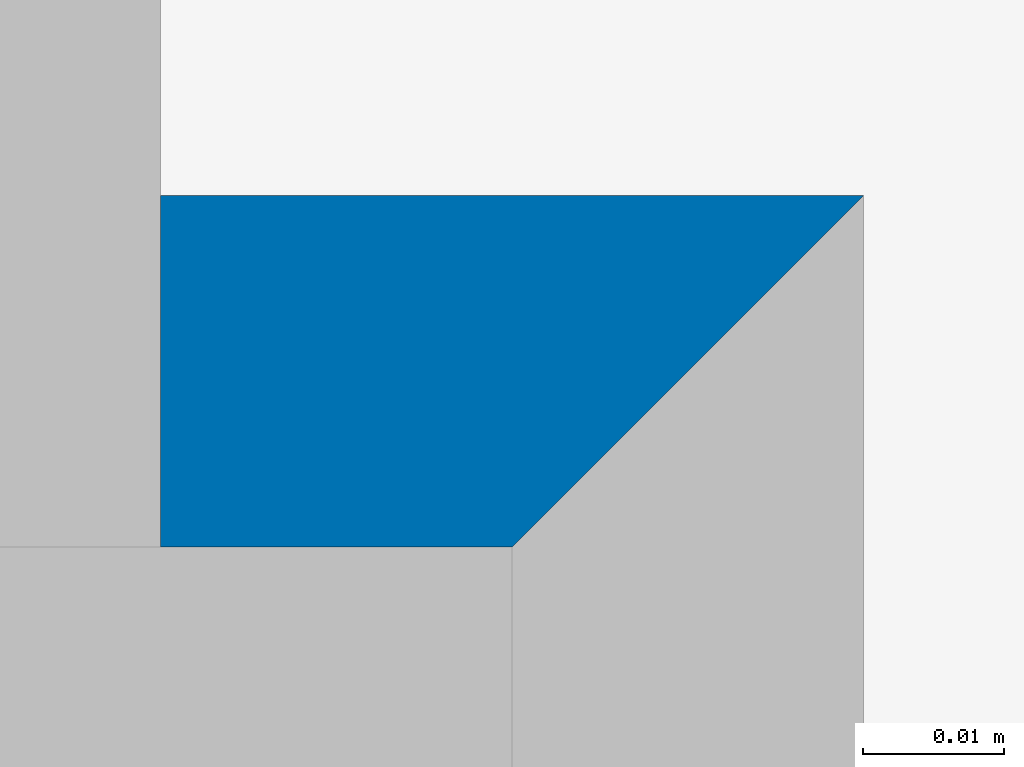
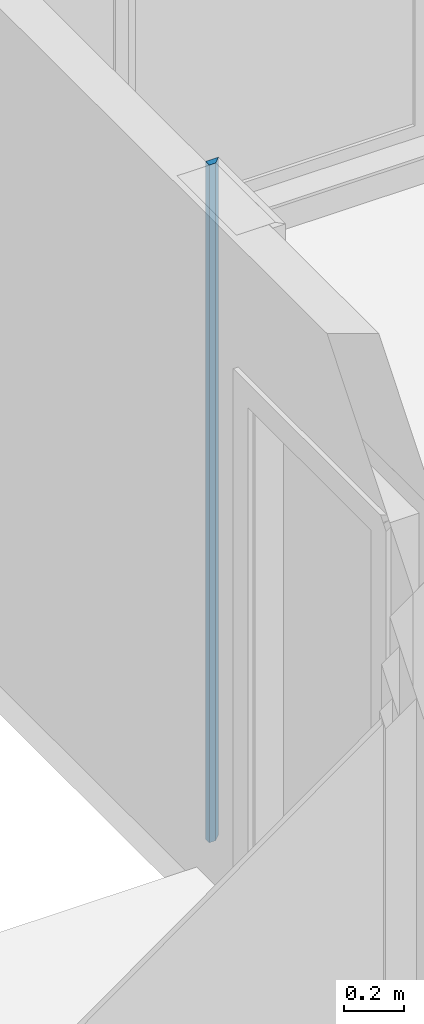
# One storey, part 10 of 24: 1 wall.
"""IFC2X3 building model written with IfcOpenShell, lengths in millimetres."""

from ifc_helpers import new_model, entity, si_unit, converted_unit, money_unit, direction, frame, origin_with_axes, place, context, subcontext, project, spatial, polyline, outline, extrude, material, layer, layer_set, layer_usage, type_object, element, save


model = new_model("IFC2X3")

# Units and contexts
model_context = context("Model", 3, precision=1e-05, world=origin_with_axes(), true_north=direction((0.0, 1.0)))
body_context = subcontext(model_context, "Body", "Model", "MODEL_VIEW")
ifc_project = project(units=[si_unit("LENGTHUNIT", "METRE", prefix="MILLI"), si_unit("AREAUNIT", "SQUARE_METRE"), si_unit("VOLUMEUNIT", "CUBIC_METRE"), converted_unit("PLANEANGLEUNIT", "DEGREE", entity("IfcPlaneAngleMeasure", 0.0174532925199), si_unit("PLANEANGLEUNIT", "RADIAN"), dimensions=[0, 0, 0, 0, 0, 0, 0]), si_unit("SOLIDANGLEUNIT", "STERADIAN"), money_unit("USD"), converted_unit("TIMEUNIT", "Year", entity("IfcTimeMeasure", 31556926.0), si_unit("TIMEUNIT", "SECOND"), dimensions=[0, 0, 0, 0, 0, 0, 0]), si_unit("MASSUNIT", "GRAM"), si_unit("THERMODYNAMICTEMPERATUREUNIT", "DEGREE_CELSIUS"), si_unit("LUMINOUSINTENSITYUNIT", "LUMEN")], contexts=[model_context])

# Site, building, storey
site_placement = place(None, origin_with_axes())
site = spatial("IfcSite", under=ifc_project, at=site_placement, Name="Grove Residential", CompositionType="ELEMENT")
building_placement = place(site_placement, origin_with_axes())
building = spatial("IfcBuilding", under=site, at=building_placement, Name="Building", CompositionType="ELEMENT")
storey_placement = place(building_placement, frame((0.0, 0.0, 3740.0), z_axis=(0.0, 0.0, 1.0), x_axis=(1.0, 0.0, 0.0)))
storey = spatial("IfcBuildingStorey", under=building, at=storey_placement, Name="First Floor", CompositionType="ELEMENT", Elevation=3740.0)

# Wall
ifc_material = material(Name="Gypsum Plasterboard")
ifc_layer_1 = layer(ifc_material, 12.5, ventilated="UNKNOWN")
ifc_layer_2 = layer(ifc_material, 12.5, ventilated="UNKNOWN")
ifc_layer_set = layer_set([ifc_layer_1, ifc_layer_2], Name="IF-001")
ifc_layer_usage = layer_usage(ifc_layer_set, "AXIS2", "POSITIVE", -25.0)
wall_type = type_object("IfcWallType", Name="IF-001 25", PredefinedType="NOTDEFINED")
wall_placement = place(storey_placement, frame((7249.99995594, 3949.99996722, -60.0), z_axis=(0.0, 0.0, 1.0), x_axis=(-0.999999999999, 1.41321587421e-06, 0.0)))
element("IfcWallStandardCase", 1, at=wall_placement, inside=storey, type_object=wall_type, material=ifc_layer_usage, Name="SW - 011", context=body_context, shape_type="SweptSolid", body=[
    extrude(outline(polyline([(-24.9999646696, -25.0), (24.9999912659, -25.0), (24.9999559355, 0.0), (0.0, 0.0), (-24.9999646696, -25.0)])), origin_with_axes(), (0.0, 0.0, 1.0), 2770.0),
])

save(model, "model.ifc")
